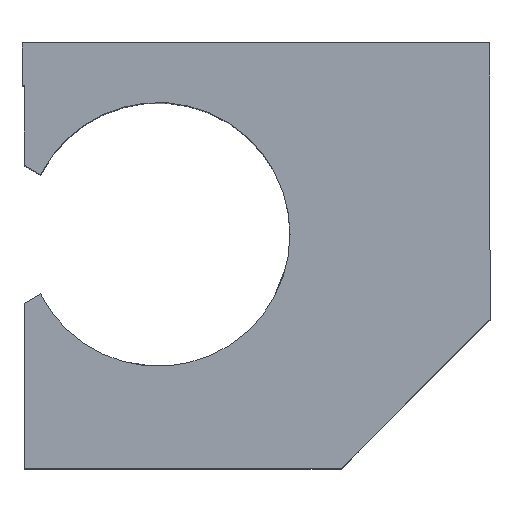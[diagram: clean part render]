
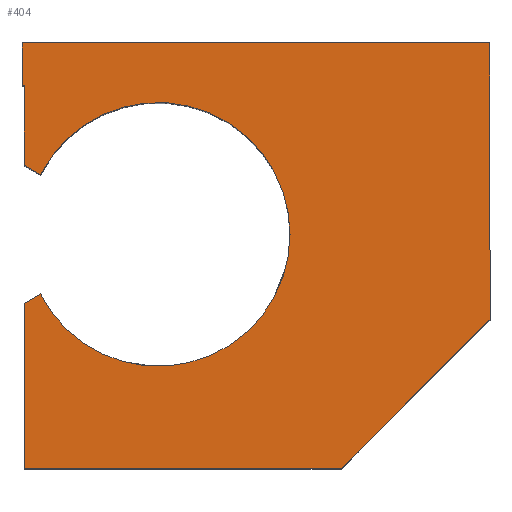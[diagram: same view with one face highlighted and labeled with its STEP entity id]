
A CAD part, top view. The second image highlights one B-rep face of the part: STEP entity #404.
In plain terms, the highlighted planar face has unit normal (0, 0, 1).
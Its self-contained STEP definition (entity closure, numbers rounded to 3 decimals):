
#12 = LINE ( 'NONE', #654, #419 ) ;
#14 = ORIENTED_EDGE ( 'NONE', *, *, #802, .T. ) ;
#16 = EDGE_LOOP ( 'NONE', ( #102, #415, #329, #1356, #400, #591, #682, #818, #366, #14, #1136, #346 ) ) ;
#39 = CARTESIAN_POINT ( 'NONE',  ( -55., 50., 45.5 ) ) ;
#52 = VECTOR ( 'NONE', #1274, 1000. ) ;
#59 = EDGE_CURVE ( 'NONE', #278, #1328, #860, .T. ) ;
#67 = EDGE_CURVE ( 'NONE', #1040, #355, #574, .T. ) ;
#70 = AXIS2_PLACEMENT_3D ( 'NONE', #1101, #894, #146 ) ;
#85 = EDGE_CURVE ( 'NONE', #1328, #210, #377, .T. ) ;
#100 = EDGE_CURVE ( 'NONE', #769, #1340, #1108, .T. ) ;
#102 = ORIENTED_EDGE ( 'NONE', *, *, #67, .F. ) ;
#105 = EDGE_CURVE ( 'NONE', #729, #571, #1208, .T. ) ;
#139 = CARTESIAN_POINT ( 'NONE',  ( -50.659, -9., 45.5 ) ) ;
#146 = DIRECTION ( 'NONE',  ( 1., 0., 0. ) ) ;
#148 = LINE ( 'NONE', #1319, #519 ) ;
#189 = PLANE ( 'NONE',  #1258 ) ;
#204 = DIRECTION ( 'NONE',  ( 0., 1., 0. ) ) ;
#210 = VERTEX_POINT ( 'NONE', #1265 ) ;
#246 = VERTEX_POINT ( 'NONE', #422 ) ;
#278 = VERTEX_POINT ( 'NONE', #139 ) ;
#320 = CARTESIAN_POINT ( 'NONE',  ( 55., 50., 45.5 ) ) ;
#329 = ORIENTED_EDGE ( 'NONE', *, *, #1249, .F. ) ;
#346 = ORIENTED_EDGE ( 'NONE', *, *, #1238, .T. ) ;
#355 = VERTEX_POINT ( 'NONE', #1028 ) ;
#361 = VECTOR ( 'NONE', #1088, 1000. ) ;
#366 = ORIENTED_EDGE ( 'NONE', *, *, #959, .T. ) ;
#369 = VERTEX_POINT ( 'NONE', #1042 ) ;
#377 = CIRCLE ( 'NONE', #70, 31. ) ;
#397 = DIRECTION ( 'NONE',  ( 0., 0., 1. ) ) ;
#400 = ORIENTED_EDGE ( 'NONE', *, *, #59, .F. ) ;
#404 = ADVANCED_FACE ( 'NONE', ( #1142 ), #189, .T. ) ;
#413 = DIRECTION ( 'NONE',  ( 0., 1., 0. ) ) ;
#415 = ORIENTED_EDGE ( 'NONE', *, *, #752, .F. ) ;
#418 = VECTOR ( 'NONE', #888, 1000. ) ;
#419 = VECTOR ( 'NONE', #413, 1000. ) ;
#422 = CARTESIAN_POINT ( 'NONE',  ( 55., -15., 45.5 ) ) ;
#429 = LINE ( 'NONE', #652, #361 ) ;
#432 = DIRECTION ( 'NONE',  ( 0., -1., 0. ) ) ;
#449 = DIRECTION ( 'NONE',  ( -1., 0., 0. ) ) ;
#474 = VERTEX_POINT ( 'NONE', #513 ) ;
#498 = EDGE_CURVE ( 'NONE', #769, #369, #148, .T. ) ;
#513 = CARTESIAN_POINT ( 'NONE',  ( -54.5, 21.218, 45.5 ) ) ;
#519 = VECTOR ( 'NONE', #680, 1000. ) ;
#571 = VERTEX_POINT ( 'NONE', #1210 ) ;
#574 = LINE ( 'NONE', #1202, #805 ) ;
#591 = ORIENTED_EDGE ( 'NONE', *, *, #898, .F. ) ;
#647 = VECTOR ( 'NONE', #204, 1000. ) ;
#652 = CARTESIAN_POINT ( 'NONE',  ( 35., -35., 45.5 ) ) ;
#654 = CARTESIAN_POINT ( 'NONE',  ( -54.5, 40., 45.5 ) ) ;
#669 = LINE ( 'NONE', #782, #956 ) ;
#677 = CARTESIAN_POINT ( 'NONE',  ( 8., 5., 45.5 ) ) ;
#680 = DIRECTION ( 'NONE',  ( 0., 1., 0. ) ) ;
#682 = ORIENTED_EDGE ( 'NONE', *, *, #498, .F. ) ;
#729 = VERTEX_POINT ( 'NONE', #320 ) ;
#737 = DIRECTION ( 'NONE',  ( 1., 0., 0. ) ) ;
#743 = AXIS2_PLACEMENT_3D ( 'NONE', #1310, #1302, #1295 ) ;
#745 = LINE ( 'NONE', #1281, #647 ) ;
#752 = EDGE_CURVE ( 'NONE', #474, #1040, #12, .T. ) ;
#769 = VERTEX_POINT ( 'NONE', #1163 ) ;
#782 = CARTESIAN_POINT ( 'NONE',  ( -55., 50., 45.5 ) ) ;
#789 = CARTESIAN_POINT ( 'NONE',  ( -55., -50., 45.5 ) ) ;
#802 = EDGE_CURVE ( 'NONE', #246, #729, #745, .T. ) ;
#805 = VECTOR ( 'NONE', #449, 1000. ) ;
#818 = ORIENTED_EDGE ( 'NONE', *, *, #100, .T. ) ;
#829 = LINE ( 'NONE', #1158, #952 ) ;
#834 = DIRECTION ( 'NONE',  ( 0.866, 0.5, 0. ) ) ;
#854 = LINE ( 'NONE', #1083, #52 ) ;
#860 = CIRCLE ( 'NONE', #743, 31. ) ;
#888 = DIRECTION ( 'NONE',  ( -1., 0., 0. ) ) ;
#894 = DIRECTION ( 'NONE',  ( 0., 0., 1. ) ) ;
#898 = EDGE_CURVE ( 'NONE', #369, #278, #829, .T. ) ;
#916 = CARTESIAN_POINT ( 'NONE',  ( -54.5, 40., 45.5 ) ) ;
#923 = CARTESIAN_POINT ( 'NONE',  ( 0., 0., 45.5 ) ) ;
#952 = VECTOR ( 'NONE', #834, 1000. ) ;
#956 = VECTOR ( 'NONE', #432, 1000. ) ;
#959 = EDGE_CURVE ( 'NONE', #1340, #246, #429, .T. ) ;
#993 = DIRECTION ( 'NONE',  ( 1., 0., 0. ) ) ;
#1024 = VECTOR ( 'NONE', #993, 1000. ) ;
#1028 = CARTESIAN_POINT ( 'NONE',  ( -55., 40., 45.5 ) ) ;
#1040 = VERTEX_POINT ( 'NONE', #916 ) ;
#1042 = CARTESIAN_POINT ( 'NONE',  ( -54.5, -11.218, 45.5 ) ) ;
#1083 = CARTESIAN_POINT ( 'NONE',  ( -50.659, 19., 45.5 ) ) ;
#1088 = DIRECTION ( 'NONE',  ( 0.707, 0.707, 0. ) ) ;
#1100 = CARTESIAN_POINT ( 'NONE',  ( 20., -50., 45.5 ) ) ;
#1101 = CARTESIAN_POINT ( 'NONE',  ( -23., 5., 45.5 ) ) ;
#1108 = LINE ( 'NONE', #789, #1024 ) ;
#1136 = ORIENTED_EDGE ( 'NONE', *, *, #105, .T. ) ;
#1142 = FACE_OUTER_BOUND ( 'NONE', #16, .T. ) ;
#1158 = CARTESIAN_POINT ( 'NONE',  ( -50.659, -9., 45.5 ) ) ;
#1163 = CARTESIAN_POINT ( 'NONE',  ( -54.5, -50., 45.5 ) ) ;
#1202 = CARTESIAN_POINT ( 'NONE',  ( -54.5, 40., 45.5 ) ) ;
#1208 = LINE ( 'NONE', #39, #418 ) ;
#1210 = CARTESIAN_POINT ( 'NONE',  ( -55., 50., 45.5 ) ) ;
#1238 = EDGE_CURVE ( 'NONE', #571, #355, #669, .T. ) ;
#1249 = EDGE_CURVE ( 'NONE', #210, #474, #854, .T. ) ;
#1258 = AXIS2_PLACEMENT_3D ( 'NONE', #923, #397, #737 ) ;
#1265 = CARTESIAN_POINT ( 'NONE',  ( -50.659, 19., 45.5 ) ) ;
#1274 = DIRECTION ( 'NONE',  ( -0.866, 0.5, 0. ) ) ;
#1281 = CARTESIAN_POINT ( 'NONE',  ( 55., 50., 45.5 ) ) ;
#1295 = DIRECTION ( 'NONE',  ( 1., 0., 0. ) ) ;
#1302 = DIRECTION ( 'NONE',  ( 0., 0., 1. ) ) ;
#1310 = CARTESIAN_POINT ( 'NONE',  ( -23., 5., 45.5 ) ) ;
#1319 = CARTESIAN_POINT ( 'NONE',  ( -54.5, 40., 45.5 ) ) ;
#1328 = VERTEX_POINT ( 'NONE', #677 ) ;
#1340 = VERTEX_POINT ( 'NONE', #1100 ) ;
#1356 = ORIENTED_EDGE ( 'NONE', *, *, #85, .F. ) ;
